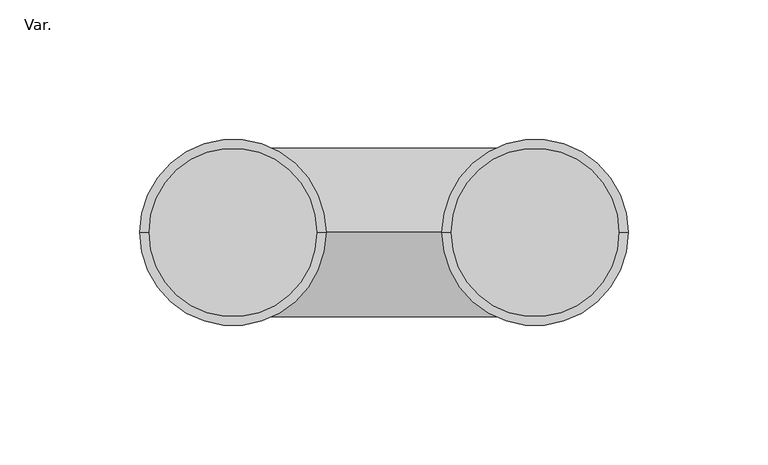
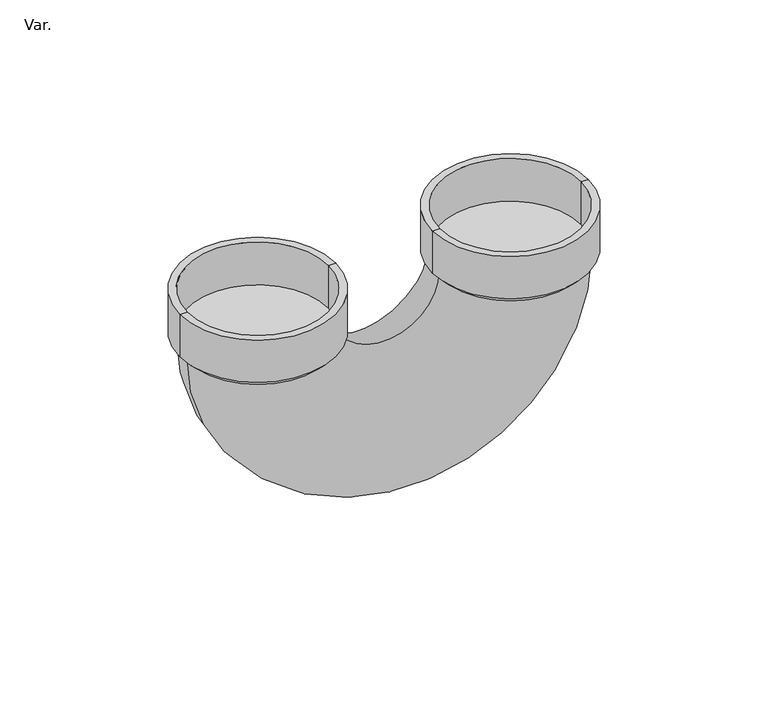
"""IFC4 building model written with IfcOpenShell, lengths in millimetres: pipe fitting geometry, PavcoWavin_UnionesDeTuberia_SanitariaSifon180°_Solo : Var.."""

import ifcopenshell
import ifcopenshell.guid

model = None  # the IFC model being written
_history = None  # IfcOwnerHistory: only IFC2X3 demands one
_inside = {}  # id of a spatial element -> (the spatial element, [elements in it])
_under = {}  # id of a project, library or spatial element -> (it, [spatial elements below it])
_declared = {}  # id of a project -> (the project, [libraries it declares])
_typed = {}  # id of a type object -> (the type object, [elements of that type])
_made_of = {}  # id of a material, layer set ... -> (it, [elements and type objects made of it])


def new_model(schema):
    """Start an empty IFC model of exactly this schema.

    Asked for "IFC4X3", IfcOpenShell would pick the latest addendum, in which some entities
    have other attributes; the version numbers below select the first issue.
    IFC2X3 requires an IfcOwnerHistory on every rooted entity: one is made here for all.
    """
    global model, _history
    if schema == "IFC4X3":
        model = ifcopenshell.file(schema_version=(4, 3, 0, 0))
    else:
        model = ifcopenshell.file(schema=schema)
    _inside.clear()
    _under.clear()
    _declared.clear()
    _typed.clear()
    _made_of.clear()
    _history = None
    if model.schema == "IFC2X3":
        org = make("IfcOrganization", Name="unknown")
        user = make(
            "IfcPersonAndOrganization",
            ThePerson=make("IfcPerson", FamilyName="unknown"),
            TheOrganization=org,
        )
        app = make(
            "IfcApplication",
            ApplicationDeveloper=org,
            Version="unknown",
            ApplicationFullName="unknown",
            ApplicationIdentifier="unknown",
        )
        _history = make(
            "IfcOwnerHistory",
            OwningUser=user,
            OwningApplication=app,
            ChangeAction="ADDED",
            CreationDate=0,
        )
    return model


def make(cls, **values):
    """One entity of the class cls with the attributes given. An attribute that is None is left unset."""
    return model.create_entity(
        cls, **{name: value for name, value in values.items() if value is not None}
    )


def rooted(cls, **values):
    """An entity with a GlobalId (a new one), such as an element, a storey or a relation."""
    return make(cls, GlobalId=ifcopenshell.guid.new(), OwnerHistory=_history, **values)


def si_unit(unit_type, name, prefix=None):
    """IfcSIUnit, for example si_unit("LENGTHUNIT", "METRE", prefix="MILLI")."""
    return make("IfcSIUnit", UnitType=unit_type, Prefix=prefix, Name=name)


def assignment(units):
    """IfcUnitAssignment: the units of a project."""
    return None if units is None else make("IfcUnitAssignment", Units=units)


def point(xyz):
    """IfcCartesianPoint."""
    return None if xyz is None else make("IfcCartesianPoint", Coordinates=xyz)


def direction(xyz):
    """IfcDirection."""
    return None if xyz is None else make("IfcDirection", DirectionRatios=xyz)


def frame(location, z_axis=None, x_axis=None):
    """IfcAxis2Placement3D, a coordinate frame: its origin and axes. An axis left out is left unset."""
    return make(
        "IfcAxis2Placement3D",
        Location=point(location),
        Axis=direction(z_axis),
        RefDirection=direction(x_axis),
    )


def origin():
    """The frame at (0, 0, 0) with its axes left unset."""
    return frame((0.0, 0.0, 0.0))


def place(relative_to, where):
    """IfcLocalPlacement: puts the frame where relative to a parent placement (None: the world)."""
    return make(
        "IfcLocalPlacement", PlacementRelTo=relative_to, RelativePlacement=where
    )


def context(
    kind, dimensions, precision=None, world=None, true_north=None, identifier=None
):
    """IfcGeometricRepresentationContext, for example the 3D "Model" context."""
    return make(
        "IfcGeometricRepresentationContext",
        ContextIdentifier=identifier,
        ContextType=kind,
        CoordinateSpaceDimension=dimensions,
        Precision=precision,
        WorldCoordinateSystem=world,
        TrueNorth=true_north,
    )


def project(units=None, contexts=None):
    """IfcProject with its units and contexts."""
    return rooted(
        "IfcProject",
        Name="project",
        RepresentationContexts=contexts,
        UnitsInContext=assignment(units),
    )


def spatial(cls, under=None, at=None, **own):
    """A site, building, storey or space (cls), placed at a placement, below another one or the project."""
    s = rooted(cls, ObjectPlacement=at, **own)
    if under is not None:
        _under.setdefault(under.id(), (under, []))[1].append(s)
    return s


def polyline(points):
    """IfcPolyline through the points."""
    return make("IfcPolyline", Points=[point(p) for p in points])


def circle_curve(where, radius):
    """IfcCircle in the frame where."""
    return make("IfcCircle", Position=where, Radius=radius)


def ellipse_curve(where, semi_axis1, semi_axis2):
    """IfcEllipse in the frame where."""
    return make(
        "IfcEllipse", Position=where, SemiAxis1=semi_axis1, SemiAxis2=semi_axis2
    )


def trimmed(basis, trim1, trim2, sense, master):
    """IfcTrimmedCurve: the piece of a basis curve between two trims."""
    return make(
        "IfcTrimmedCurve",
        BasisCurve=basis,
        Trim1=trim1,
        Trim2=trim2,
        SenseAgreement=sense,
        MasterRepresentation=master,
    )


def shape(context_of_items, identifier, shape_type, items):
    """IfcShapeRepresentation: the items that make up one representation, for example the "Body"."""
    return make(
        "IfcShapeRepresentation",
        ContextOfItems=context_of_items,
        RepresentationIdentifier=identifier,
        RepresentationType=shape_type,
        Items=items,
    )


def source(mapping_origin, context_of_items, identifier, shape_type, items):
    """IfcRepresentationMap: a shape defined once, which mapped items show again and again."""
    return make(
        "IfcRepresentationMap",
        MappingOrigin=mapping_origin,
        MappedRepresentation=shape(context_of_items, identifier, shape_type, items),
    )


def transform(
    local_origin,
    x_axis=None,
    y_axis=None,
    z_axis=None,
    scale=None,
    scale2=None,
    scale3=None,
    uniform=True,
):
    """IfcCartesianTransformationOperator3D, or its non-uniform kind. x_axis, y_axis, z_axis: its Axis1, 2, 3."""
    if uniform:
        return make(
            "IfcCartesianTransformationOperator3D",
            Axis1=direction(x_axis),
            Axis2=direction(y_axis),
            LocalOrigin=point(local_origin),
            Scale=scale,
            Axis3=direction(z_axis),
        )
    return make(
        "IfcCartesianTransformationOperator3DnonUniform",
        Axis1=direction(x_axis),
        Axis2=direction(y_axis),
        LocalOrigin=point(local_origin),
        Scale=scale,
        Axis3=direction(z_axis),
        Scale2=scale2,
        Scale3=scale3,
    )


def mapped(mapping_source, mapping_target):
    """IfcMappedItem: shows the shape of a source again, moved by a transform."""
    return make(
        "IfcMappedItem", MappingSource=mapping_source, MappingTarget=mapping_target
    )


def made_of(thing, what):
    """Note that an element or type object is made of a material, layer set ...; save() writes the relation."""
    if what is not None:
        _made_of.setdefault(what.id(), (what, []))[1].append(thing)
    return thing


def element(
    cls,
    number,
    at=None,
    inside=None,
    cuts=None,
    type_object=None,
    material=None,
    context=None,
    identifier="Body",
    shape_type=None,
    held_by="IfcProductDefinitionShape",
    body=None,
    shapes=None,
    **own,
):
    """One element of the class cls, such as IfcWall. Its Tag is "e" and its number.

    at: its placement. inside: the storey or other place that contains it. cuts: it is an
    opening in that element (IfcRelVoidsElement). A single representation is given by context,
    identifier, shape_type and body (its items); several are given by shapes. held_by: the class
    of the entity that holds the representations. save() writes the other relations.
    """
    e = rooted(cls, Tag="e%d" % number, ObjectPlacement=at, **own)
    if body is not None:
        shapes = [shape(context, identifier, shape_type, body)]
    if shapes is not None:
        e.Representation = make(held_by, Representations=shapes)
    if inside is not None:
        _inside.setdefault(inside.id(), (inside, []))[1].append(e)
    if cuts is not None:
        rooted(
            "IfcRelVoidsElement", RelatingBuildingElement=cuts, RelatedOpeningElement=e
        )
    if type_object is not None:
        _typed.setdefault(type_object.id(), (type_object, []))[1].append(e)
    return made_of(e, material)


def aggregate(whole, parts):
    """IfcRelAggregates: a whole, such as a stair, and the parts it consists of."""
    return rooted("IfcRelAggregates", RelatingObject=whole, RelatedObjects=parts)


def save(model, path):
    """Write the relations noted so far, then the file.

    IfcRelAggregates (storeys below a building ...), IfcRelContainedInSpatialStructure (elements
    in a storey), IfcRelDefinesByType, IfcRelAssociatesMaterial and IfcRelDeclares: one each for
    every whole, place, type object, material and project.
    """
    for whole, parts in _under.values():
        aggregate(whole, parts)
    for where, things in _inside.values():
        rooted(
            "IfcRelContainedInSpatialStructure",
            RelatedElements=things,
            RelatingStructure=where,
        )
    for kind, things in _typed.values():
        rooted("IfcRelDefinesByType", RelatedObjects=things, RelatingType=kind)
    for what, things in _made_of.values():
        rooted("IfcRelAssociatesMaterial", RelatedObjects=things, RelatingMaterial=what)
    for by, libraries in _declared.values():
        rooted("IfcRelDeclares", RelatingContext=by, RelatedDefinitions=libraries)
    model.write(path)


def plane_surface(at):
    """IfcPlane: the flat surface through the origin of the frame at, square to its z axis."""
    return make("IfcPlane", Position=at)


def cylinder_surface(at, radius):
    """IfcCylindricalSurface: all points at the distance radius from the z axis of the frame at."""
    return make("IfcCylindricalSurface", Position=at, Radius=radius)


def revolved_surface(curve, axis_point, axis_direction):
    """IfcSurfaceOfRevolution: the curve turned about the line through axis_point along axis_direction."""
    return make(
        "IfcSurfaceOfRevolution",
        SweptCurve=make("IfcArbitraryOpenProfileDef", ProfileType="CURVE", Curve=curve),
        AxisPosition=make("IfcAxis1Placement", Location=point(axis_point), Axis=direction(axis_direction)),
    )


def advanced_brep(points, edges, surfaces, faces):
    """IfcAdvancedBrep: a solid bounded by faces that lie on surfaces and meet in shared edges.

    An edge is (start, end): straight between two places in points (the first is 0);
    or (start, end, curve); or (start, end, curve, False) where it runs against its curve.
    A face is (place in surfaces, loops), or (place, loops, False) where it looks against
    its surface's normal. A loop lists edges by number (the first is 1), with a minus sign
    where the edge is run from its end to its start. The first loop is the outer one.
    """
    corners = [point(p) for p in points]
    vertices = [make("IfcVertexPoint", VertexGeometry=c) for c in corners]
    made = []
    for start, end, *more in edges:
        made.append(
            make(
                "IfcEdgeCurve",
                EdgeStart=vertices[start],
                EdgeEnd=vertices[end],
                EdgeGeometry=more[0] if more else make("IfcPolyline", Points=[corners[start], corners[end]]),
                SameSense=more[1] if len(more) > 1 else True,
            )
        )
    hull = []
    for where, loops, *sense in faces:
        bounds = []
        for j, loop in enumerate(loops):
            ring = [make("IfcOrientedEdge", EdgeElement=made[abs(k) - 1], Orientation=k > 0) for k in loop]
            bounds.append(
                make(
                    "IfcFaceOuterBound" if j == 0 else "IfcFaceBound",
                    Bound=make("IfcEdgeLoop", EdgeList=ring),
                    Orientation=True,
                )
            )
        hull.append(make("IfcAdvancedFace", Bounds=bounds, FaceSurface=surfaces[where], SameSense=sense[0] if sense else True))
    return make("IfcAdvancedBrep", Outer=make("IfcClosedShell", CfsFaces=hull))


def var_aa32e2ee(model_context):
    return source(origin(), model_context, "Body", "AdvancedBrep", [
        advanced_brep(
        [(84.165, 0.0, -3.109), (84.165, 0.0, 19.05), (23.835, 0.0, 19.05), (23.835, 0.0, -3.109), (87.274, 0.0, 0.0), (20.726, 0.0, 0.0), (87.274, 0.0, 19.05), (20.726, 0.0, 19.05)],
        [
            (0, 1),
            (1, 2, circle_curve(frame((54.0, 0.0, 19.05), z_axis=(0.0, 0.0, 1.0), x_axis=(-1.0, 0.0, 0.0)), 30.165)),
            (2, 3),
            (3, 0, circle_curve(frame((54.0, 0.0, -3.109), z_axis=(0.0, 0.0, -1.0), x_axis=(-1.0, 0.0, 0.0)), 30.165)),
            (2, 1, circle_curve(frame((54.0, 0.0, 19.05), z_axis=(0.0, 0.0, 1.0), x_axis=(-1.0, 0.0, 0.0)), 30.165)),
            (0, 3, circle_curve(frame((54.0, 0.0, -3.109), z_axis=(0.0, 0.0, -1.0), x_axis=(-1.0, 0.0, 0.0)), 30.165)),
            (4, 0),
            (3, 5),
            (5, 4, circle_curve(frame((54.0, 0.0, 0.0), z_axis=(0.0, 0.0, -1.0), x_axis=(-1.0, 0.0, 0.0)), 33.274)),
            (4, 5, circle_curve(frame((54.0, 0.0, 0.0), z_axis=(0.0, 0.0, -1.0), x_axis=(-1.0, 0.0, 0.0)), 33.274)),
            (6, 4),
            (5, 7),
            (7, 6, circle_curve(frame((54.0, 0.0, 19.05), z_axis=(0.0, 0.0, -1.0), x_axis=(-1.0, 0.0, 0.0)), 33.274)),
            (6, 7, circle_curve(frame((54.0, 0.0, 19.05), z_axis=(0.0, 0.0, -1.0), x_axis=(-1.0, 0.0, 0.0)), 33.274)),
            (1, 6),
            (7, 2),
        ],
        [
            revolved_surface(polyline([(23.835, 0.0, 19.049999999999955), (23.835, 0.0, -3.1089999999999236)]), (54.0, 0.0, -1999.109), (0.0, 0.0, 1.0)),
            revolved_surface(polyline([(23.835, 0.0, -3.109), (20.726, 0.0, 0.0)]), (54.0, 0.0, -1999.109), (0.0, 0.0, 1.0)),
            cylinder_surface(frame((54.0, 0.0, -1999.109), z_axis=(0.0, 0.0, 1.0), x_axis=(-1.0, 0.0, 0.0)), 33.274),
            plane_surface(frame((54.0, 0.0, 19.05), z_axis=(0.0, 0.0, 1.0), x_axis=(-1.0, 0.0, 0.0))),
        ],
        [
            (0, [[1, 2, 3, 4]]),
            (0, [[-3, 5, -1, 6]]),
            (1, [[7, -4, 8, 9]]),
            (1, [[-8, -6, -7, 10]]),
            (2, [[11, -9, 12, 13]]),
            (2, [[-12, -10, -11, 14]]),
            (3, [[15, -13, 16, -2]]),
            (3, [[-16, -14, -15, -5]]),
        ],
    ),
        advanced_brep(
        [(-84.165, 0.0, -3.109), (-23.835, 0.0, -3.109), (-23.835, 0.0, 19.05), (-84.165, 0.0, 19.05), (-87.274, 0.0, 0.0), (-20.726, 0.0, 0.0), (-87.274, 0.0, 19.05), (-20.726, 0.0, 19.05)],
        [
            (0, 1, circle_curve(frame((-54.0, 0.0, -3.109), z_axis=(0.0, 0.0, -1.0), x_axis=(1.0, 0.0, 0.0)), 30.165)),
            (1, 2),
            (2, 3, circle_curve(frame((-54.0, 0.0, 19.05), z_axis=(0.0, 0.0, 1.0), x_axis=(1.0, 0.0, 0.0)), 30.165)),
            (3, 0),
            (1, 0, circle_curve(frame((-54.0, 0.0, -3.109), z_axis=(0.0, 0.0, -1.0), x_axis=(1.0, 0.0, 0.0)), 30.165)),
            (3, 2, circle_curve(frame((-54.0, 0.0, 19.05), z_axis=(0.0, 0.0, 1.0), x_axis=(1.0, 0.0, 0.0)), 30.165)),
            (4, 5, circle_curve(frame((-54.0, 0.0, 0.0), z_axis=(0.0, 0.0, -1.0), x_axis=(1.0, 0.0, 0.0)), 33.274)),
            (5, 1),
            (0, 4),
            (5, 4, circle_curve(frame((-54.0, 0.0, 0.0), z_axis=(0.0, 0.0, -1.0), x_axis=(1.0, 0.0, 0.0)), 33.274)),
            (6, 7, circle_curve(frame((-54.0, 0.0, 19.05), z_axis=(0.0, 0.0, -1.0), x_axis=(1.0, 0.0, 0.0)), 33.274)),
            (7, 5),
            (4, 6),
            (7, 6, circle_curve(frame((-54.0, 0.0, 19.05), z_axis=(0.0, 0.0, -1.0), x_axis=(1.0, 0.0, 0.0)), 33.274)),
            (2, 7),
            (6, 3),
        ],
        [
            revolved_surface(polyline([(-23.835, 0.0, 19.049999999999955), (-23.835, 0.0, -3.1089999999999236)]), (-54.0, 0.0, -1999.109), (0.0, 0.0, 1.0)),
            revolved_surface(polyline([(-23.835, 0.0, -3.109), (-20.726, 0.0, 0.0)]), (-54.0, 0.0, -1999.109), (0.0, 0.0, 1.0)),
            cylinder_surface(frame((-54.0, 0.0, -1999.109), z_axis=(0.0, 0.0, 1.0), x_axis=(1.0, 0.0, 0.0)), 33.274),
            plane_surface(frame((-54.0, 0.0, 19.05), z_axis=(0.0, 0.0, 1.0), x_axis=(1.0, 0.0, 0.0))),
        ],
        [
            (0, [[1, 2, 3, 4]]),
            (0, [[5, -4, 6, -2]]),
            (1, [[7, 8, -1, 9]]),
            (1, [[10, -9, -5, -8]]),
            (2, [[11, 12, -7, 13]]),
            (2, [[14, -13, -10, -12]]),
            (3, [[-3, 15, -11, 16]]),
            (3, [[-6, -16, -14, -15]]),
        ],
    ),
        advanced_brep(
        [(-84.35, 0.0, 0.0), (-23.65, 0.0, 0.0), (84.35, 0.0, 0.0), (23.65, 0.0, 0.0)],
        [
            (0, 1, circle_curve(frame((-54.0, 0.0, 0.0), z_axis=(0.0, 0.0, 1.0), x_axis=(1.0, 0.0, 0.0)), 30.35)),
            (1, 0, circle_curve(frame((-54.0, 0.0, 0.0), z_axis=(0.0, 0.0, 1.0), x_axis=(1.0, 0.0, 0.0)), 30.35)),
            (2, 3, circle_curve(frame((54.0, 0.0, 0.0), z_axis=(0.0, 0.0, 1.0), x_axis=(-1.0, 0.0, 0.0)), 30.35)),
            (3, 2, circle_curve(frame((54.0, 0.0, 0.0), z_axis=(0.0, 0.0, 1.0), x_axis=(-1.0, 0.0, 0.0)), 30.35)),
            (3, 1, circle_curve(frame((0.0, 0.0, 0.0), z_axis=(0.0, 1.0, 0.0), x_axis=(-1.0, 0.0, 0.0)), 23.65)),
            (0, 2, circle_curve(frame((0.0, 0.0, 0.0), z_axis=(0.0, -1.0, 0.0), x_axis=(-1.0, 0.0, 0.0)), 84.35)),
        ],
        [
            plane_surface(frame((-54.0, 0.0, 0.0), z_axis=(0.0, 0.0, 1.0), x_axis=(0.0, -1.0, 0.0))),
            plane_surface(frame((54.0, 0.0, 0.0), z_axis=(0.0, 0.0, 1.0), x_axis=(0.0, -1.0, 0.0))),
            revolved_surface(trimmed(ellipse_curve(frame((-54.0, 0.0, 0.0), z_axis=(0.0, 0.0, 1.0), x_axis=(1.0, 0.0, 0.0)), 30.35, 30.35), [point((-84.35, 0.0, 0.0))], [point((-23.65, 0.0, 0.0))], True, "CARTESIAN"), (0.0, 0.0, 0.0), (0.0, -1.0, 0.0)),
            revolved_surface(trimmed(ellipse_curve(frame((-54.0, 0.0, 0.0), z_axis=(0.0, 0.0, 1.0), x_axis=(1.0, 0.0, 0.0)), 30.35, 30.35), [point((-23.65, 0.0, 0.0))], [point((-84.35, 0.0, 0.0))], True, "CARTESIAN"), (0.0, 0.0, 0.0), (0.0, -1.0, 0.0)),
        ],
        [
            (0, [[1, 2]]),
            (1, [[3, 4]]),
            (2, [[5, -1, 6, -4]]),
            (3, [[-6, -2, -5, -3]]),
        ],
    ),
    ])


if __name__ == "__main__":
    model = new_model("IFC4")
    model_context = context("Model", 3, world=origin())
    ifc_project = project(units=[si_unit("LENGTHUNIT", "METRE", prefix="MILLI")], contexts=[model_context])
    site = spatial("IfcSite", under=ifc_project)
    building = spatial("IfcBuilding", under=site)
    placement = place(None, origin())
    var_shape = var_aa32e2ee(model_context)
    element("IfcPipeFitting", 1, ObjectType="PavcoWavin_UnionesDeTuberia_SanitariaSifon180°_Solo : Var.", at=placement, inside=building, context=model_context, shape_type="MappedRepresentation", body=[
        mapped(var_shape, transform((0.0, 0.0, 0.0), x_axis=(1.0, 0.0, 0.0), y_axis=(0.0, 1.0, 0.0), z_axis=(0.0, 0.0, 1.0))),
    ])
    save(model, "model.ifc")
